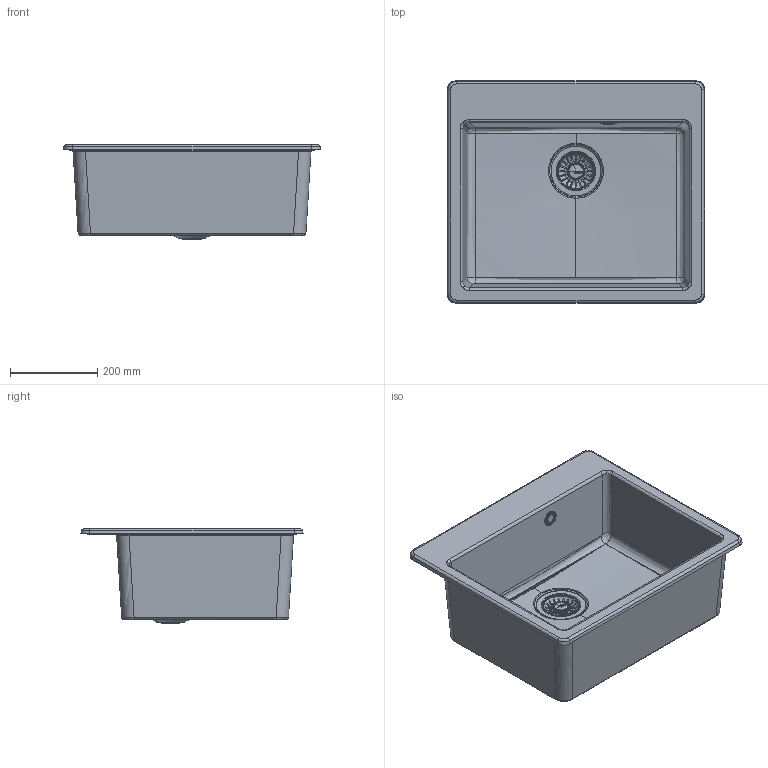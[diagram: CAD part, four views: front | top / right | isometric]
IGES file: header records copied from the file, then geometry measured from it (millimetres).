
Global section: file name: F:\_CONVERSIONE_CAD_2024_2025\PACCHETTI_2026\NUOVI_PACCHETTI_LUGLIO\PRIORITY_1\3D001_Sinks_MythosX_MYK-610-52-FTL\3D001_Sinks_MythosX_MYK-610-52-FTL.igs; native system: Rhinoceros ( May  6 2026 ); preprocessor: Trout Lake IGES 012 May  6 2026; date: 260706.123934; units: millimetre
Bounding box: 590 x 510 x 217.87 mm (x, y, z)
Surface area: 1310678.5 mm2 (no closed solid volume)
Topology: 0 solids, 0 shells, 1443 faces, 10098 edges, 10029 vertices
Faces by surface type: bspline 1443
